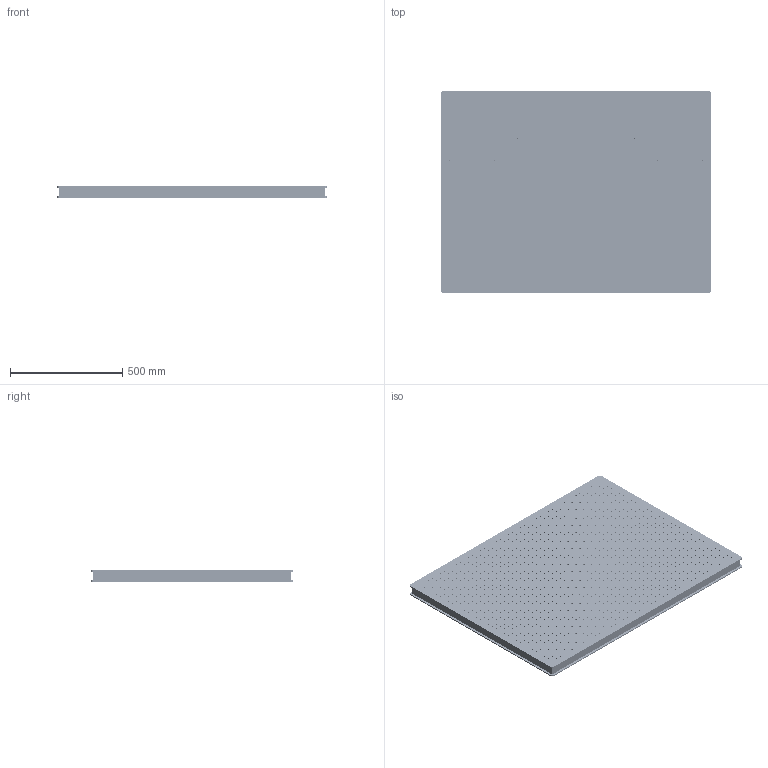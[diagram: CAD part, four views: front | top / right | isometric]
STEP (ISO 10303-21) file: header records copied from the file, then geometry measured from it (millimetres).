
FILE_DESCRIPTION (( 'STEP AP203' ), '1' );
FILE_NAME ('OTBB912-50 怢醱.STEP', '2019-05-09T08:49:37', ( 'User' ), ( 'User' ), 'SwSTEP 2.0', 'SolidWorks 2016', '' );
FILE_SCHEMA (( 'CONFIG_CONTROL_DESIGN' ));
Length unit declared in the file: millimetre
Products named in the file (1): OTBB912-50 怢醱
Bounding box: 1200 x 900 x 50 mm (x, y, z)
Surface area: 4626232.3 mm2 (no closed solid volume)
Topology: 0 solids, 30 shells, 3196 faces, 9818 edges, 6654 vertices
Faces by surface type: cylinder 3132, plane 64
Entity records: 119872 total; most frequent: DIRECTION 22492, CARTESIAN_POINT 19669, ORIENTED_EDGE 19256, EDGE_CURVE 9818, AXIS2_PLACEMENT_3D 9477, VERTEX_POINT 6654, EDGE_LOOP 6324, CIRCLE 6280
